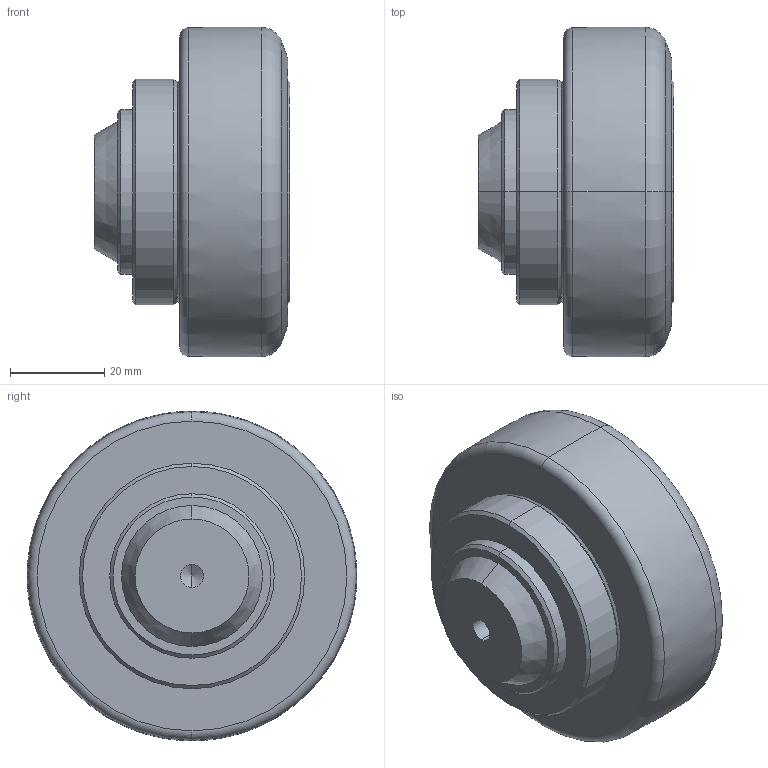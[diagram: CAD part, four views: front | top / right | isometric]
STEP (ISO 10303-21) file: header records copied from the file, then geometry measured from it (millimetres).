
FILE_DESCRIPTION (( 'STEP AP214' ), '1' );
FILE_NAME ('3D2.0360.STEP', '2013-12-17T04:54:02', ( 'usuario' ), ( 'Hewlett-Packard Company' ), 'SwSTEP 2.0', 'SolidWorks 2017', '' );
FILE_SCHEMA (( 'AUTOMOTIVE_DESIGN' ));
Length unit declared in the file: millimetre
Products named in the file (1): 3D2.0360
Bounding box: 41.7 x 70.1 x 70.1 mm (x, y, z)
Volume: 111038.1 mm3; surface area: 14240.9 mm2
Topology: 1 solids, 1 shells, 35 faces, 70 edges, 41 vertices
Faces by surface type: cone 16, plane 7, cylinder 6, torus 6
Entity records: 938 total; most frequent: DIRECTION 186, CARTESIAN_POINT 145, ORIENTED_EDGE 136, AXIS2_PLACEMENT_3D 82, EDGE_CURVE 68, CIRCLE 46, VERTEX_POINT 41, EDGE_LOOP 41
